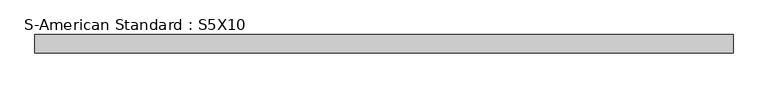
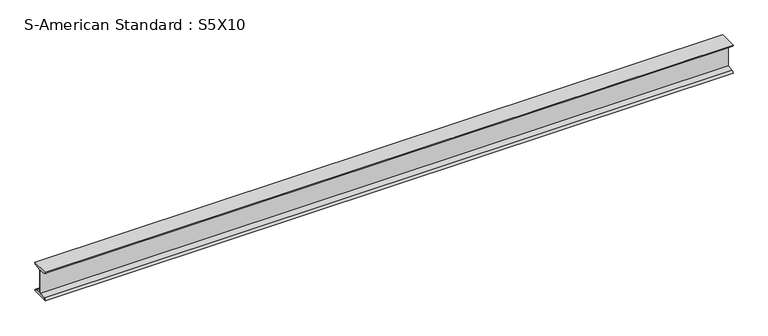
"""IFC4 building model written with IfcOpenShell, lengths in millimetres: beam geometry, S-American Standard : S5X10."""

from ifc_helpers import new_model, si_unit, point, frame, frame_2d, origin, place, context, project, spatial, polyline, circle_curve, trimmed, segment, composite_curve, outline, extrude, source, transform, mapped, element, save


def s_american_standard_s5x10_09af4045(model_context):
    return source(origin(), model_context, "Body", "SweptSolid", [
        extrude(outline(composite_curve([segment(polyline([(-38.1, 63.5), (38.1, 63.5)]), True, "CONTINUOUS"), segment(trimmed(circle_curve(frame_2d((29.8648437, 63.5)), 8.2351563), [point((38.1, 63.5))], [point((29.8648437, 55.2648437))], False, "CARTESIAN"), True, "CONTINUOUS"), segment(polyline([(29.8648437, 55.2648437), (2.7285156, 50.9668716), (2.7285156, -50.9668716), (29.8648437, -55.2648438)]), True, "CONTINUOUS"), segment(trimmed(circle_curve(frame_2d((29.8648437, -63.5)), 8.2351562), [point((29.8648437, -55.2648438))], [point((38.1, -63.5))], False, "CARTESIAN"), True, "CONTINUOUS"), segment(polyline([(38.1, -63.5), (-38.1, -63.5)]), True, "CONTINUOUS"), segment(trimmed(circle_curve(frame_2d((-29.8648438, -63.5)), 8.2351562), [point((-38.1, -63.5))], [point((-29.8648438, -55.2648438))], False, "CARTESIAN"), True, "CONTINUOUS"), segment(polyline([(-29.8648438, -55.2648438), (-2.7285156, -50.9668716), (-2.7285156, 50.9668716), (-29.8648438, 55.2648437)]), True, "CONTINUOUS"), segment(trimmed(circle_curve(frame_2d((-29.8648438, 63.5)), 8.2351562), [point((-29.8648438, 55.2648437))], [point((-38.1, 63.5))], False, "CARTESIAN"), True, "CONTINUOUS")], self_intersect=False)), frame((-1462.88125, 0.0, 0.0), z_axis=(1.0, 0.0, 0.0), x_axis=(0.0, 1.0, 0.0)), (0.0, 0.0, 1.0), 2925.7625),
    ])


if __name__ == "__main__":
    model = new_model("IFC4")
    model_context = context("Model", 3, world=origin())
    ifc_project = project(units=[si_unit("LENGTHUNIT", "METRE", prefix="MILLI")], contexts=[model_context])
    site = spatial("IfcSite", under=ifc_project)
    building = spatial("IfcBuilding", under=site)
    placement = place(None, origin())
    s_american_standard_s5x10_shape = s_american_standard_s5x10_09af4045(model_context)
    element("IfcBeam", 1, ObjectType="S-American Standard : S5X10", at=placement, inside=building, context=model_context, shape_type="MappedRepresentation", body=[
        mapped(s_american_standard_s5x10_shape, transform((0.0, 0.0, 0.0), x_axis=(1.0, 0.0, 0.0), y_axis=(0.0, 1.0, 0.0), z_axis=(0.0, 0.0, 1.0))),
    ])
    save(model, "model.ifc")
